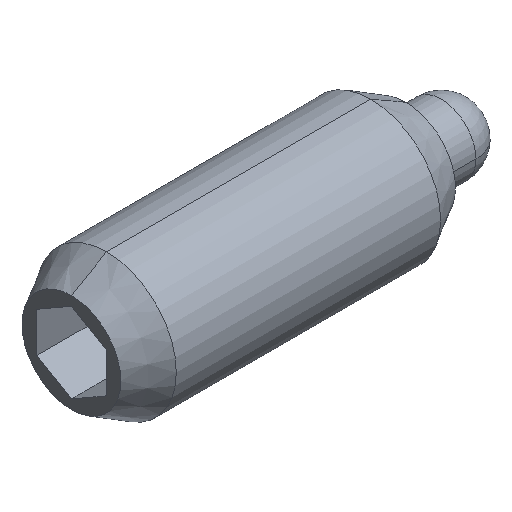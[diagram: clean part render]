
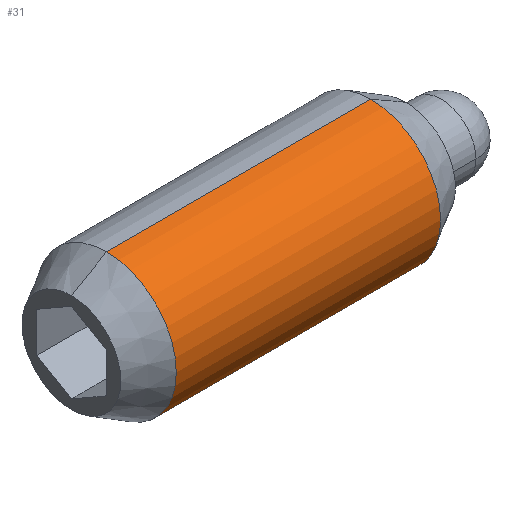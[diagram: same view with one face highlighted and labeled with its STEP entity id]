
A CAD part, isometric view. The second image highlights one B-rep face of the part: STEP entity #31.
In plain terms, the highlighted cylindrical face has radius 7.938 mm (diameter 15.875 mm), a partial arc.
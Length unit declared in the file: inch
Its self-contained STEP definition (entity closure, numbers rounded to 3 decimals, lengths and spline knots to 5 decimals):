
#23 = EDGE_LOOP ( 'NONE', ( #28, #137, #138, #129 ) ) ;
#28 = ORIENTED_EDGE ( 'NONE', *, *, #338, .F. ) ;
#31 = ADVANCED_FACE ( 'NONE', ( #401 ), #400, .T. ) ;
#126 = EDGE_CURVE ( 'NONE', #274, #277, #524, .T. ) ;
#129 = ORIENTED_EDGE ( 'NONE', *, *, #126, .T. ) ;
#136 = EDGE_CURVE ( 'NONE', #289, #292, #570, .T. ) ;
#137 = ORIENTED_EDGE ( 'NONE', *, *, #136, .T. ) ;
#138 = ORIENTED_EDGE ( 'NONE', *, *, #341, .T. ) ;
#274 = VERTEX_POINT ( 'NONE', #804 ) ;
#277 = VERTEX_POINT ( 'NONE', #798 ) ;
#289 = VERTEX_POINT ( 'NONE', #841 ) ;
#292 = VERTEX_POINT ( 'NONE', #835 ) ;
#338 = EDGE_CURVE ( 'NONE', #289, #277, #939, .T. ) ;
#341 = EDGE_CURVE ( 'NONE', #292, #274, #930, .T. ) ;
#395 = DIRECTION ( 'NONE',  ( 0., 0., 1. ) ) ;
#396 = DIRECTION ( 'NONE',  ( -1., 0., 0. ) ) ;
#397 = AXIS2_PLACEMENT_3D ( 'NONE', #399, #396, #395 ) ;
#399 = CARTESIAN_POINT ( 'NONE',  ( 1.5, 0., 0. ) ) ;
#400 = CYLINDRICAL_SURFACE ( 'NONE', #397, 0.3125 ) ;
#401 = FACE_OUTER_BOUND ( 'NONE', #23, .T. ) ;
#521 = DIRECTION ( 'NONE',  ( 0., 0., -1. ) ) ;
#522 = DIRECTION ( 'NONE',  ( 1., 0., 0. ) ) ;
#523 = AXIS2_PLACEMENT_3D ( 'NONE', #530, #522, #521 ) ;
#524 = CIRCLE ( 'NONE', #523, 0.3125 ) ;
#530 = CARTESIAN_POINT ( 'NONE',  ( 0.15762, 0., 0. ) ) ;
#566 = DIRECTION ( 'NONE',  ( 0., 0., -1. ) ) ;
#567 = DIRECTION ( 'NONE',  ( -1., 0., 0. ) ) ;
#568 = CARTESIAN_POINT ( 'NONE',  ( 1.34238, 0., 0. ) ) ;
#569 = AXIS2_PLACEMENT_3D ( 'NONE', #568, #567, #566 ) ;
#570 = CIRCLE ( 'NONE', #569, 0.3125 ) ;
#798 = CARTESIAN_POINT ( 'NONE',  ( 0.15762, 0., -0.3125 ) ) ;
#804 = CARTESIAN_POINT ( 'NONE',  ( 0.15762, 0., 0.3125 ) ) ;
#835 = CARTESIAN_POINT ( 'NONE',  ( 1.34238, 0., 0.3125 ) ) ;
#841 = CARTESIAN_POINT ( 'NONE',  ( 1.34238, 0., -0.3125 ) ) ;
#927 = DIRECTION ( 'NONE',  ( -1., 0., 0. ) ) ;
#928 = VECTOR ( 'NONE', #927, 39.37008 ) ;
#929 = CARTESIAN_POINT ( 'NONE',  ( 1.5, 0., 0.3125 ) ) ;
#930 = LINE ( 'NONE', #929, #928 ) ;
#931 = DIRECTION ( 'NONE',  ( -1., 0., 0. ) ) ;
#932 = VECTOR ( 'NONE', #931, 39.37008 ) ;
#933 = CARTESIAN_POINT ( 'NONE',  ( 1.5, 0., -0.3125 ) ) ;
#939 = LINE ( 'NONE', #933, #932 ) ;
